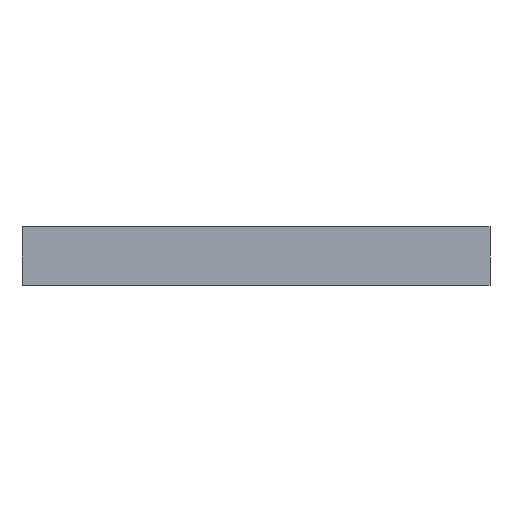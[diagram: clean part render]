
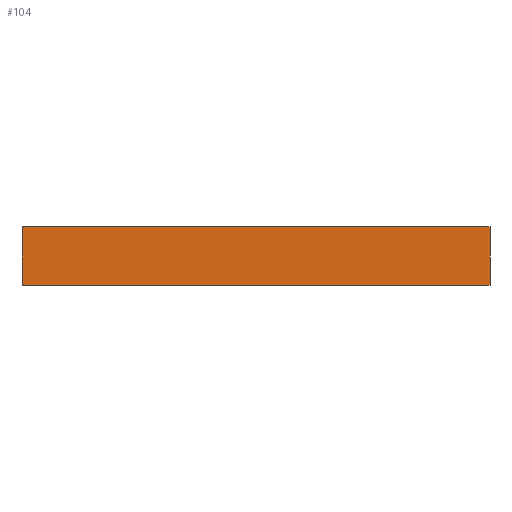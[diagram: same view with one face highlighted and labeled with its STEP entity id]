
A CAD part, front view. The second image highlights one B-rep face of the part: STEP entity #104.
In plain terms, the highlighted planar face has unit normal (0, -1, 0).
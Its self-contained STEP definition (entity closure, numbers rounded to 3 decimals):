
#104=ADVANCED_FACE('',(#164),#660,.T.);
#164=FACE_OUTER_BOUND('',#292,.F.);
#292=EDGE_LOOP('',(#432,#433,#434,#435));
#432=ORIENTED_EDGE('',*,*,#864,.F.);
#433=ORIENTED_EDGE('',*,*,#872,.F.);
#434=ORIENTED_EDGE('',*,*,#868,.T.);
#435=ORIENTED_EDGE('',*,*,#871,.T.);
#660=PLANE('',#1226);
#672=LINE('',#1828,#730);
#676=LINE('',#1832,#734);
#679=LINE('',#1835,#737);
#680=LINE('',#1836,#738);
#730=VECTOR('',#1439,40.);
#734=VECTOR('',#1443,40.);
#737=VECTOR('',#1446,5.);
#738=VECTOR('',#1447,5.);
#864=EDGE_CURVE('',#1048,#1049,#672,.T.);
#868=EDGE_CURVE('',#1044,#1045,#676,.T.);
#871=EDGE_CURVE('',#1045,#1049,#679,.T.);
#872=EDGE_CURVE('',#1044,#1048,#680,.T.);
#1044=VERTEX_POINT('',#1666);
#1045=VERTEX_POINT('',#1667);
#1048=VERTEX_POINT('',#1670);
#1049=VERTEX_POINT('',#1671);
#1226=AXIS2_PLACEMENT_3D('',#1904,#1535,#1536);
#1439=DIRECTION('',(1.,0.,0.));
#1443=DIRECTION('',(1.,0.,0.));
#1446=DIRECTION('',(0.,0.,-1.));
#1447=DIRECTION('',(0.,0.,-1.));
#1535=DIRECTION('',(0.,-1.,0.));
#1536=DIRECTION('',(1.,0.,0.));
#1666=CARTESIAN_POINT('',(-20.,-20.25,-9.));
#1667=CARTESIAN_POINT('',(20.,-20.25,-9.));
#1670=CARTESIAN_POINT('',(-20.,-20.25,-14.));
#1671=CARTESIAN_POINT('',(20.,-20.25,-14.));
#1828=CARTESIAN_POINT('',(-20.,-20.25,-14.));
#1832=CARTESIAN_POINT('',(-20.,-20.25,-9.));
#1835=CARTESIAN_POINT('',(20.,-20.25,-9.));
#1836=CARTESIAN_POINT('',(-20.,-20.25,-9.));
#1904=CARTESIAN_POINT('',(-20.4,-20.25,-14.4));
